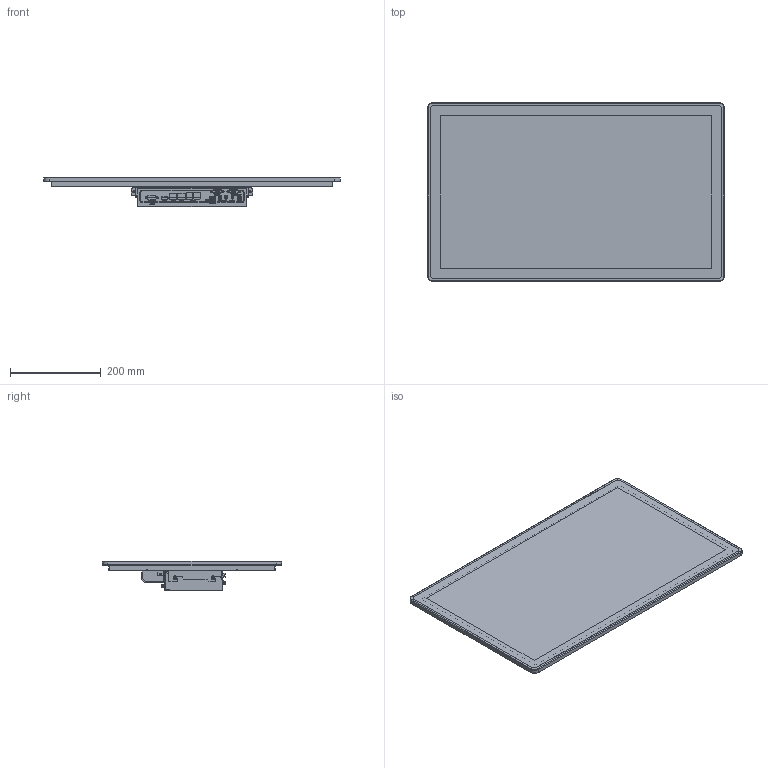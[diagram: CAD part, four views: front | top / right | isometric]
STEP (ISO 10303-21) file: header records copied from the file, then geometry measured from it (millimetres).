
FILE_DESCRIPTION (( 'STEP AP214' ), '1' );
FILE_NAME ('PC1227AP.STEP', '2025-04-09T17:10:11', ( '' ), ( '' ), 'SwSTEP 2.0', 'SolidWorks 2019', '' );
FILE_SCHEMA (( 'AUTOMOTIVE_DESIGN' ));
Length unit declared in the file: inch
Products named in the file (4): PC1227AP; 2221-1027AP; PC1210A-BOX MODULE
Assembly tree (3 placements, depth 3):
  PC1227AP
    PC1227AP
      2221-1027AP
    PC1210A-BOX MODULE
Bounding box: 654.6 x 395 x 65.5 mm (x, y, z)
Volume: 5756592.3 mm3; surface area: 2339772 mm2
Topology: 31 solids, 213 shells, 4519 faces, 14959 edges, 10782 vertices
Faces by surface type: plane 3246, cylinder 699, bspline 306, cone 262, torus 4, sphere 2
Entity records: 248042 total; most frequent: CARTESIAN_POINT 62340, ORIENTED_EDGE 25881, DIRECTION 23246, EDGE_CURVE 14911, VECTOR 11062, LINE 11062, VERTEX_POINT 10780, AXIS2_PLACEMENT_3D 6092
